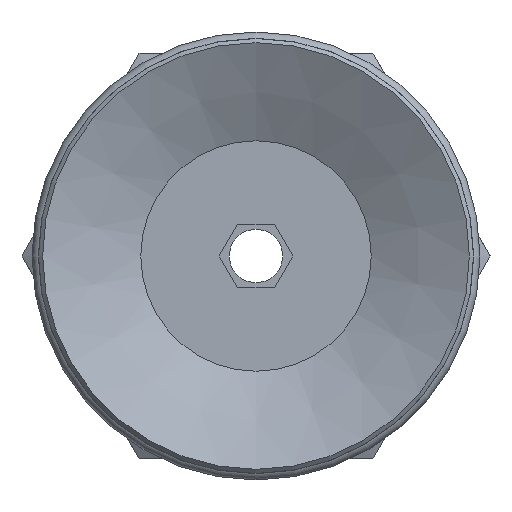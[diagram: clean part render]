
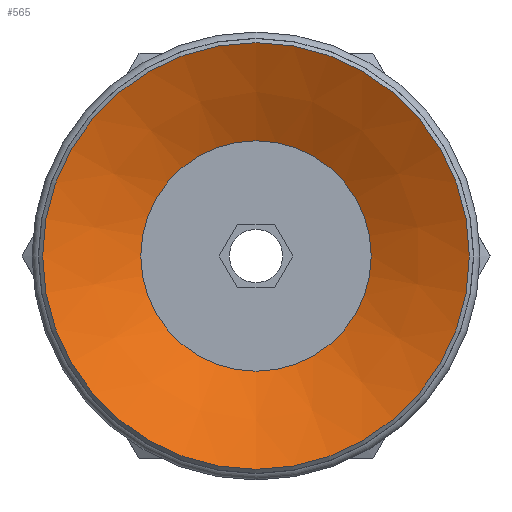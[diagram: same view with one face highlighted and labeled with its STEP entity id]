
A CAD part, front view. The second image highlights one B-rep face of the part: STEP entity #565.
In plain terms, the highlighted conical face has half-angle 63 degrees and reference radius 5.4 mm.
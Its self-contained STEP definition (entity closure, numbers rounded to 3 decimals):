
#565=ADVANCED_FACE('',(#835,#836),#837,.F.);
#835=FACE_BOUND('',#1112,.T.);
#836=FACE_OUTER_BOUND('',#1113,.T.);
#837=CONICAL_SURFACE('',#1114,5.4,1.1);
#1112=EDGE_LOOP('',(#1878));
#1113=EDGE_LOOP('',(#1879));
#1114=AXIS2_PLACEMENT_3D('',#1880,#1881,#1882);
#1878=ORIENTED_EDGE('',*,*,#2110,.F.);
#1879=ORIENTED_EDGE('',*,*,#2111,.T.);
#1880=CARTESIAN_POINT('',(0.0,5.518,0.0));
#1881=DIRECTION('',(-0.0,-1.0,0.));
#1882=DIRECTION('',(0.0,0.,-1.0));
#2110=EDGE_CURVE('',#2472,#2472,#2473,.T.);
#2111=EDGE_CURVE('',#2474,#2474,#2475,.T.);
#2472=VERTEX_POINT('',#3264);
#2473=CIRCLE('',#3265,5.4);
#2474=VERTEX_POINT('',#3266);
#2475=CIRCLE('',#3267,10.0);
#3264=CARTESIAN_POINT('',(0.0,5.518,-5.4));
#3265=AXIS2_PLACEMENT_3D('',#3584,#3585,#3586);
#3266=CARTESIAN_POINT('',(0.0,3.175,-10.0));
#3267=AXIS2_PLACEMENT_3D('',#3587,#3588,#3589);
#3584=CARTESIAN_POINT('',(0.0,5.518,0.0));
#3585=DIRECTION('',(0.0,-1.0,0.));
#3586=DIRECTION('',(0.0,0.,-1.0));
#3587=CARTESIAN_POINT('',(0.0,3.175,0.0));
#3588=DIRECTION('',(0.0,-1.0,0.));
#3589=DIRECTION('',(0.0,0.,-1.0));
